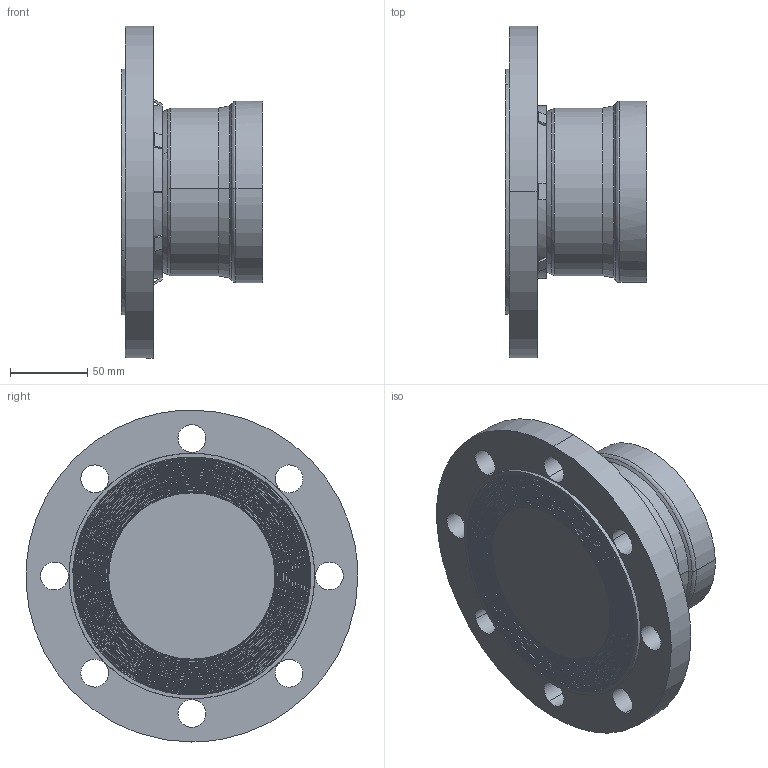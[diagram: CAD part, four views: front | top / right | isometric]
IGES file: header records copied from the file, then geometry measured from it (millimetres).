
Start section: 3D InterOp IGES (Version 25 0 1), Spatial Corp. Copyright (c) 1999-2007.
Global section: file name: pim0004623.igs; native system: Spatial Corp.; preprocessor: 3D InterOp ACIS/IGES; author: Cad-Pim; organization: TransMagic, Inc.; date: 20150430.141124; units: millimetre
Bounding box: 91.76 x 214.83 x 215 mm (x, y, z)
Volume: 855939.4 mm3; surface area: 179983.7 mm2
Topology: 1 solids, 1 shells, 633 faces, 1913 edges, 1199 vertices
Faces by surface type: bspline 559, cylinder 62, cone 12
